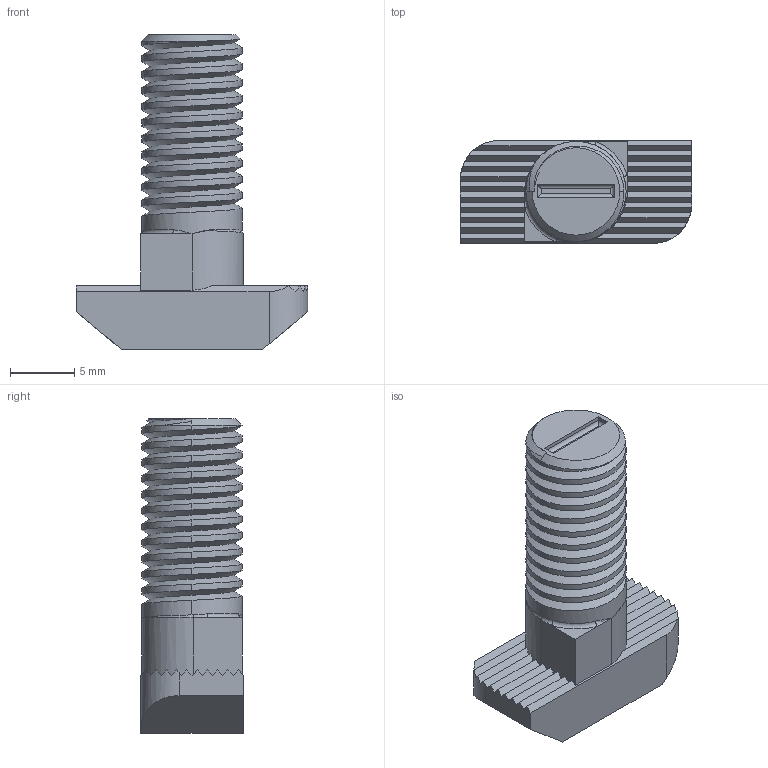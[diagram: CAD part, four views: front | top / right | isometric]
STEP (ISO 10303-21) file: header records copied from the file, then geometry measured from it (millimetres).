
FILE_DESCRIPTION (( 'STEP AP203' ), '1' );
FILE_NAME ('5026.STEP', '2016-01-21T10:12:30', ( '' ), ( '' ), 'SwSTEP 2.0', 'SolidWorks 2014', '' );
FILE_SCHEMA (( 'CONFIG_CONTROL_DESIGN' ));
Length unit declared in the file: millimetre
Products named in the file (1): 5026
Bounding box: 18 x 8 x 24.5 mm (x, y, z)
Volume: 1493.4 mm3; surface area: 1181.3 mm2
Topology: 1 solids, 1 shells, 105 faces, 292 edges, 186 vertices
Faces by surface type: plane 59, cylinder 32, bspline 8, cone 3, torus 3
Entity records: 4800 total; most frequent: CARTESIAN_POINT 2384, ORIENTED_EDGE 576, DIRECTION 394, EDGE_CURVE 288, VERTEX_POINT 186, LINE 164, VECTOR 164, AXIS2_PLACEMENT_3D 115
